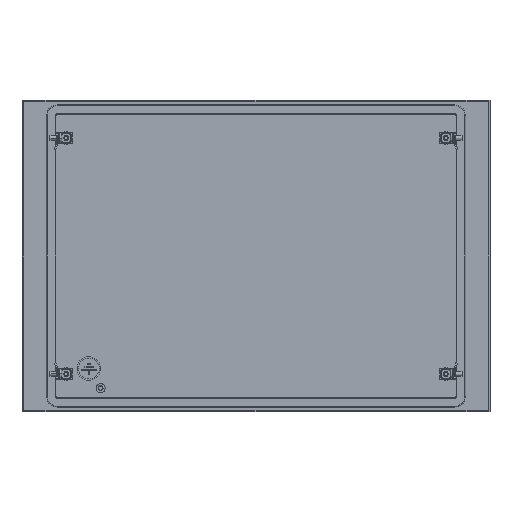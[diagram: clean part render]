
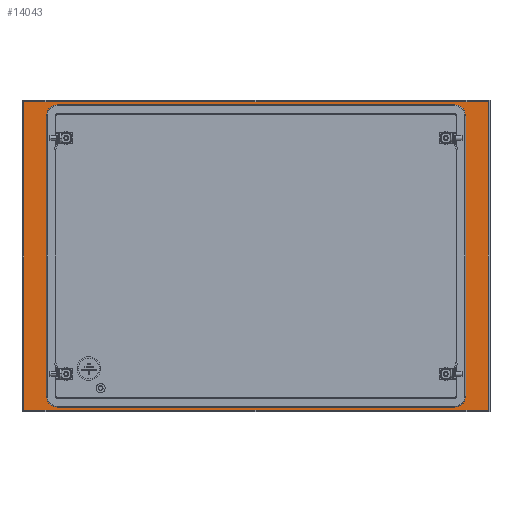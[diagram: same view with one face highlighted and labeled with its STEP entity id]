
A CAD part, left-side view. The second image highlights one B-rep face of the part: STEP entity #14043.
In plain terms, the highlighted planar face has unit normal (-1, 0, 0).
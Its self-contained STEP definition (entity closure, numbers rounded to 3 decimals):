
#105 = VERTEX_POINT ( 'NONE', #19139 ) ;
#236 = DIRECTION ( 'NONE',  ( 0., 1., 0. ) ) ;
#512 = VECTOR ( 'NONE', #21045, 1000. ) ;
#728 = CARTESIAN_POINT ( 'NONE',  ( -2., -295.5, 0. ) ) ;
#865 = LINE ( 'NONE', #728, #16658 ) ;
#1414 = LINE ( 'NONE', #11398, #15888 ) ;
#1502 = CARTESIAN_POINT ( 'NONE',  ( -2., 266.5, 178. ) ) ;
#2292 = CARTESIAN_POINT ( 'NONE',  ( -2., 0., 196. ) ) ;
#2669 = DIRECTION ( 'NONE',  ( 0., 1., 0. ) ) ;
#2776 = EDGE_LOOP ( 'NONE', ( #3488, #14211, #16129, #23625, #24166, #4509, #11779, #6073 ) ) ;
#3488 = ORIENTED_EDGE ( 'NONE', *, *, #23864, .F. ) ;
#3574 = EDGE_CURVE ( 'NONE', #21678, #10371, #22301, .T. ) ;
#3770 = CARTESIAN_POINT ( 'NONE',  ( -2., 0., 0. ) ) ;
#3963 = CARTESIAN_POINT ( 'NONE',  ( -2., 295.5, 196. ) ) ;
#3989 = DIRECTION ( 'NONE',  ( 0., 0., 1. ) ) ;
#4509 = ORIENTED_EDGE ( 'NONE', *, *, #3574, .T. ) ;
#4570 = CARTESIAN_POINT ( 'NONE',  ( -2., -252.5, 178. ) ) ;
#4733 = VERTEX_POINT ( 'NONE', #8507 ) ;
#4764 = CARTESIAN_POINT ( 'NONE',  ( -2., 266.5, -178. ) ) ;
#4985 = CIRCLE ( 'NONE', #15217, 14. ) ;
#4994 = VECTOR ( 'NONE', #12598, 1000. ) ;
#5234 = CARTESIAN_POINT ( 'NONE',  ( -2., 252.5, -178. ) ) ;
#5258 = VECTOR ( 'NONE', #2669, 1000. ) ;
#5420 = ORIENTED_EDGE ( 'NONE', *, *, #21605, .T. ) ;
#5753 = CARTESIAN_POINT ( 'NONE',  ( -2., 0., -196. ) ) ;
#6054 = DIRECTION ( 'NONE',  ( 1., 0., 0. ) ) ;
#6073 = ORIENTED_EDGE ( 'NONE', *, *, #9135, .F. ) ;
#6348 = LINE ( 'NONE', #12258, #15948 ) ;
#6753 = DIRECTION ( 'NONE',  ( 0., -1., 0. ) ) ;
#7056 = EDGE_CURVE ( 'NONE', #24266, #14928, #9966, .T. ) ;
#7348 = CIRCLE ( 'NONE', #18380, 14. ) ;
#7389 = FACE_BOUND ( 'NONE', #2776, .T. ) ;
#7729 = CARTESIAN_POINT ( 'NONE',  ( -2., -252.5, -178. ) ) ;
#7984 = DIRECTION ( 'NONE',  ( 0., -1., 0. ) ) ;
#8507 = CARTESIAN_POINT ( 'NONE',  ( -2., -266.5, 178. ) ) ;
#8659 = CARTESIAN_POINT ( 'NONE',  ( -2., 295.5, -196. ) ) ;
#8827 = VERTEX_POINT ( 'NONE', #9095 ) ;
#9095 = CARTESIAN_POINT ( 'NONE',  ( -2., -266.5, -178. ) ) ;
#9135 = EDGE_CURVE ( 'NONE', #19897, #11996, #12417, .T. ) ;
#9563 = PLANE ( 'NONE',  #18716 ) ;
#9723 = LINE ( 'NONE', #5753, #24039 ) ;
#9781 = DIRECTION ( 'NONE',  ( -1., 0., 0. ) ) ;
#9966 = LINE ( 'NONE', #2292, #22342 ) ;
#10321 = DIRECTION ( 'NONE',  ( 0., 0., -1. ) ) ;
#10342 = DIRECTION ( 'NONE',  ( 0., 0., 1. ) ) ;
#10371 = VERTEX_POINT ( 'NONE', #1502 ) ;
#11398 = CARTESIAN_POINT ( 'NONE',  ( -2., 295.5, 0. ) ) ;
#11779 = ORIENTED_EDGE ( 'NONE', *, *, #14538, .F. ) ;
#11996 = VERTEX_POINT ( 'NONE', #14307 ) ;
#12097 = CARTESIAN_POINT ( 'NONE',  ( -2., 252.5, 178. ) ) ;
#12258 = CARTESIAN_POINT ( 'NONE',  ( -2., -266.5, 0. ) ) ;
#12417 = LINE ( 'NONE', #20215, #5258 ) ;
#12598 = DIRECTION ( 'NONE',  ( 0., 0., 1. ) ) ;
#12862 = LINE ( 'NONE', #16816, #512 ) ;
#13619 = AXIS2_PLACEMENT_3D ( 'NONE', #5234, #20612, #16761 ) ;
#14043 = ADVANCED_FACE ( 'NONE', ( #21326, #7389 ), #9563, .F. ) ;
#14211 = ORIENTED_EDGE ( 'NONE', *, *, #15334, .T. ) ;
#14307 = CARTESIAN_POINT ( 'NONE',  ( -2., 252.5, 192. ) ) ;
#14538 = EDGE_CURVE ( 'NONE', #11996, #10371, #18733, .T. ) ;
#14861 = CARTESIAN_POINT ( 'NONE',  ( -2., -252.5, 192. ) ) ;
#14928 = VERTEX_POINT ( 'NONE', #3963 ) ;
#15217 = AXIS2_PLACEMENT_3D ( 'NONE', #7729, #6054, #7984 ) ;
#15334 = EDGE_CURVE ( 'NONE', #4733, #8827, #6348, .T. ) ;
#15888 = VECTOR ( 'NONE', #19063, 1000. ) ;
#15948 = VECTOR ( 'NONE', #10321, 1000. ) ;
#16129 = ORIENTED_EDGE ( 'NONE', *, *, #18018, .T. ) ;
#16182 = ORIENTED_EDGE ( 'NONE', *, *, #22798, .T. ) ;
#16229 = EDGE_CURVE ( 'NONE', #105, #24266, #865, .T. ) ;
#16526 = EDGE_LOOP ( 'NONE', ( #19804, #17594, #5420, #16182 ) ) ;
#16658 = VECTOR ( 'NONE', #10342, 1000. ) ;
#16761 = DIRECTION ( 'NONE',  ( 0., 0., -1. ) ) ;
#16816 = CARTESIAN_POINT ( 'NONE',  ( -2., -252.5, -192. ) ) ;
#17523 = AXIS2_PLACEMENT_3D ( 'NONE', #12097, #9781, #3989 ) ;
#17594 = ORIENTED_EDGE ( 'NONE', *, *, #7056, .T. ) ;
#17907 = EDGE_CURVE ( 'NONE', #19892, #19056, #12862, .T. ) ;
#18018 = EDGE_CURVE ( 'NONE', #8827, #19892, #4985, .T. ) ;
#18202 = CARTESIAN_POINT ( 'NONE',  ( -2., -295.5, 196. ) ) ;
#18380 = AXIS2_PLACEMENT_3D ( 'NONE', #4570, #24277, #6753 ) ;
#18581 = EDGE_CURVE ( 'NONE', #19056, #21678, #25003, .T. ) ;
#18716 = AXIS2_PLACEMENT_3D ( 'NONE', #3770, #22985, #20828 ) ;
#18733 = CIRCLE ( 'NONE', #17523, 14. ) ;
#19056 = VERTEX_POINT ( 'NONE', #23581 ) ;
#19063 = DIRECTION ( 'NONE',  ( 0., 0., -1. ) ) ;
#19139 = CARTESIAN_POINT ( 'NONE',  ( -2., -295.5, -196. ) ) ;
#19804 = ORIENTED_EDGE ( 'NONE', *, *, #16229, .T. ) ;
#19892 = VERTEX_POINT ( 'NONE', #21101 ) ;
#19897 = VERTEX_POINT ( 'NONE', #14861 ) ;
#20179 = CARTESIAN_POINT ( 'NONE',  ( -2., 266.5, -178. ) ) ;
#20215 = CARTESIAN_POINT ( 'NONE',  ( -2., -252.5, 192. ) ) ;
#20612 = DIRECTION ( 'NONE',  ( 1., 0., 0. ) ) ;
#20828 = DIRECTION ( 'NONE',  ( 0., 0., 1. ) ) ;
#21045 = DIRECTION ( 'NONE',  ( 0., 1., 0. ) ) ;
#21101 = CARTESIAN_POINT ( 'NONE',  ( -2., -252.5, -192. ) ) ;
#21326 = FACE_OUTER_BOUND ( 'NONE', #16526, .T. ) ;
#21605 = EDGE_CURVE ( 'NONE', #14928, #21739, #1414, .T. ) ;
#21678 = VERTEX_POINT ( 'NONE', #20179 ) ;
#21739 = VERTEX_POINT ( 'NONE', #8659 ) ;
#22301 = LINE ( 'NONE', #4764, #4994 ) ;
#22342 = VECTOR ( 'NONE', #236, 1000. ) ;
#22798 = EDGE_CURVE ( 'NONE', #21739, #105, #9723, .T. ) ;
#22904 = DIRECTION ( 'NONE',  ( 0., -1., 0. ) ) ;
#22985 = DIRECTION ( 'NONE',  ( 1., 0., 0. ) ) ;
#23581 = CARTESIAN_POINT ( 'NONE',  ( -2., 252.5, -192. ) ) ;
#23625 = ORIENTED_EDGE ( 'NONE', *, *, #17907, .T. ) ;
#23864 = EDGE_CURVE ( 'NONE', #4733, #19897, #7348, .T. ) ;
#24039 = VECTOR ( 'NONE', #22904, 1000. ) ;
#24166 = ORIENTED_EDGE ( 'NONE', *, *, #18581, .T. ) ;
#24266 = VERTEX_POINT ( 'NONE', #18202 ) ;
#24277 = DIRECTION ( 'NONE',  ( -1., 0., 0. ) ) ;
#25003 = CIRCLE ( 'NONE', #13619, 14. ) ;
